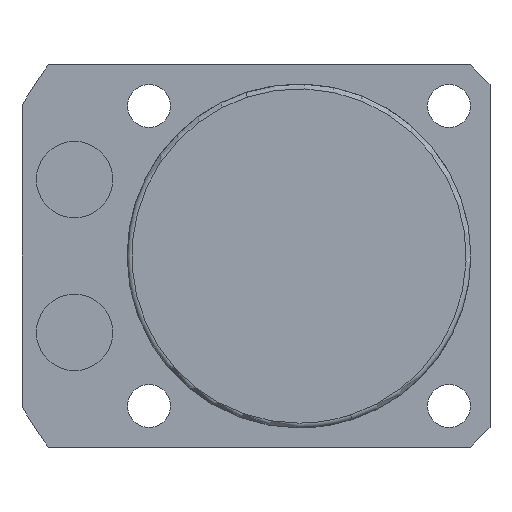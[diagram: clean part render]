
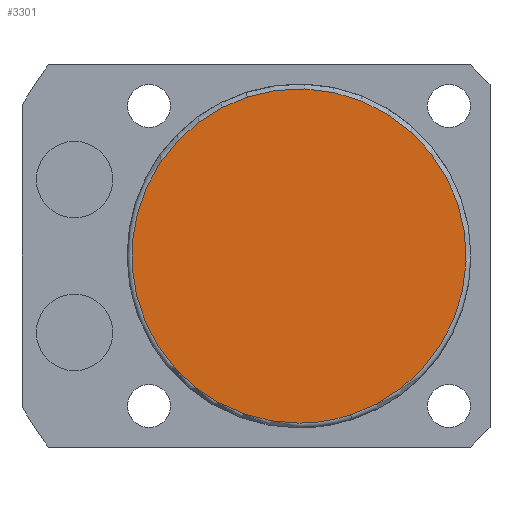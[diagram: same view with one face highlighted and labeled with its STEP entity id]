
A CAD part, front view. The second image highlights one B-rep face of the part: STEP entity #3301.
In plain terms, the highlighted planar face has unit normal (0, -1, 0).
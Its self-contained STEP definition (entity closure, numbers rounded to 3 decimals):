
#3234=CARTESIAN_POINT('',(5.408,-45.5,-16.643));
#3235=VERTEX_POINT('',#3234);
#3253=CARTESIAN_POINT('',(-5.408,-45.5,16.643));
#3254=VERTEX_POINT('',#3253);
#3262=CARTESIAN_POINT('',(0.0,-45.5,0.0));
#3263=DIRECTION('',(0.0,-1.0,0.0));
#3264=DIRECTION('',(0.0,0.0,-1.0));
#3265=AXIS2_PLACEMENT_3D('',#3262,#3263,#3264);
#3266=CIRCLE('',#3265,17.5);
#3267=EDGE_CURVE('no 2476',#3235,#3254,#3266,.T.);
#3277=CARTESIAN_POINT('',(0.0,-45.5,-17.5));
#3278=VERTEX_POINT('',#3277);
#3279=CARTESIAN_POINT('',(0.0,-45.5,0.0));
#3280=DIRECTION('',(0.0,-1.0,0.0));
#3281=DIRECTION('',(0.0,0.0,-1.0));
#3282=AXIS2_PLACEMENT_3D('',#3279,#3280,#3281);
#3283=CIRCLE('',#3282,17.5);
#3284=EDGE_CURVE('no 2485',#3278,#3235,#3283,.T.);
#3285=ORIENTED_EDGE('',*,*,#3284,.T.);
#3286=ORIENTED_EDGE('',*,*,#3267,.T.);
#3287=CARTESIAN_POINT('',(0.0,-45.5,0.0));
#3288=DIRECTION('',(0.0,-1.0,0.0));
#3289=DIRECTION('',(0.0,0.0,-1.0));
#3290=AXIS2_PLACEMENT_3D('',#3287,#3288,#3289);
#3291=CIRCLE('',#3290,17.5);
#3292=EDGE_CURVE('no 2491',#3254,#3278,#3291,.T.);
#3293=ORIENTED_EDGE('',*,*,#3292,.T.);
#3294=EDGE_LOOP('',(#3285,#3286,#3293));
#3295=FACE_OUTER_BOUND('',#3294,.T.);
#3296=CARTESIAN_POINT('',(0.0,-45.5,0.0));
#3297=DIRECTION('',(0.0,-1.0,0.0));
#3298=DIRECTION('',(0.0,0.0,-1.0));
#3299=AXIS2_PLACEMENT_3D('',#3296,#3297,#3298);
#3300=PLANE('',#3299);
#3301=ADVANCED_FACE('no 2478',(#3295),#3300,.T.);
